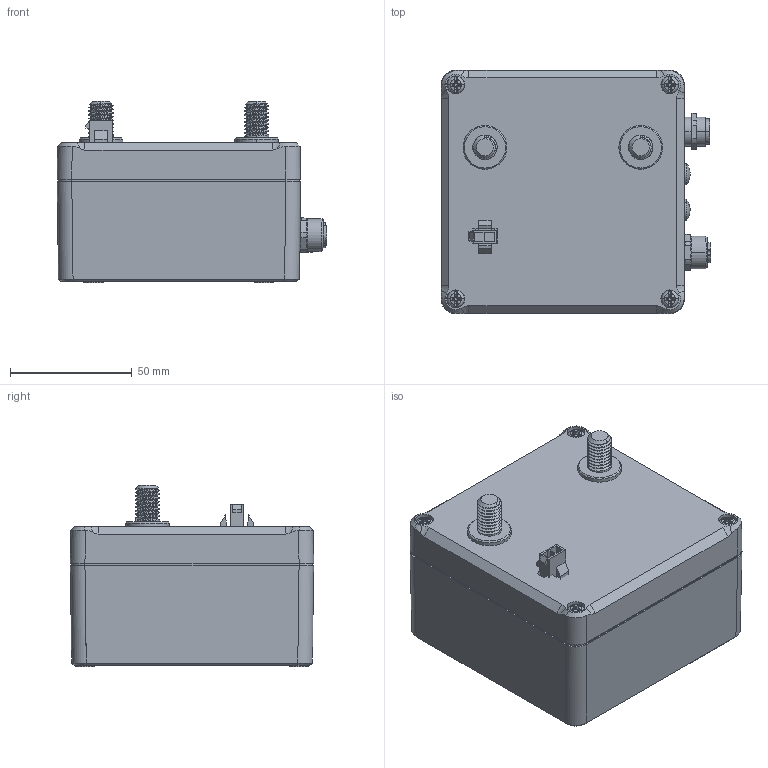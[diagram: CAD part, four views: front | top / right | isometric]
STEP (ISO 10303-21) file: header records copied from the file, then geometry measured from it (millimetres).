
FILE_DESCRIPTION (( 'STEP AP214' ), '1' );
FILE_NAME ('V1-2 - Energy Meter 2017.STEP', '2017-04-04T07:49:39', ( '' ), ( '' ), 'SwSTEP 2.0', 'SolidWorks 2017', '' );
FILE_SCHEMA (( 'AUTOMOTIVE_DESIGN' ));
Length unit declared in the file: millimetre
Products named in the file (12): LED; Stecker 4 pol; Stecker 8 pol; Molex Stecker; GFK-Verdrehschutz; Kupferkontakt; IVTModul; 63212000_ET_212; SHR Z KAL40X25X10 WN 1412 MG_3DSYM; 212 OT_1002699_3DSYM; 212 UT_1002700_3DSYM; V1-2 - Energy Meter 2017
Assembly tree (16 placements, depth 3):
  V1-2 - Energy Meter 2017
    63212000_ET_212
      212 UT_1002700_3DSYM
      212 OT_1002699_3DSYM
      SHR Z KAL40X25X10 WN 1412 MG_3DSYM  x4
    IVTModul
    Kupferkontakt  x2
    GFK-Verdrehschutz
    Molex Stecker
    Stecker 8 pol
    Stecker 4 pol
    LED  x2
Bounding box: 110.83 x 100 x 74.5 mm (x, y, z)
Volume: 213903.9 mm3; surface area: 124797.7 mm2
Topology: 11 solids, 27 shells, 1925 faces, 4847 edges, 3001 vertices
Faces by surface type: plane 647, cylinder 601, bspline 312, cone 250, torus 87, sphere 28
Entity records: 61463 total; most frequent: CARTESIAN_POINT 24824, ORIENTED_EDGE 7402, DIRECTION 7000, EDGE_CURVE 3731, AXIS2_PLACEMENT_3D 2550, VERTEX_POINT 2354, LINE 1900, VECTOR 1900
